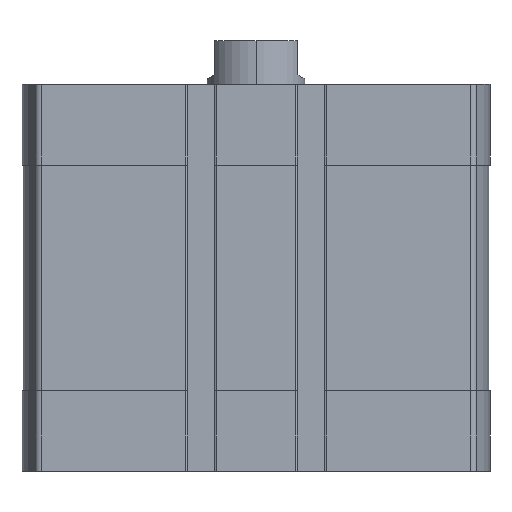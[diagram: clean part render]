
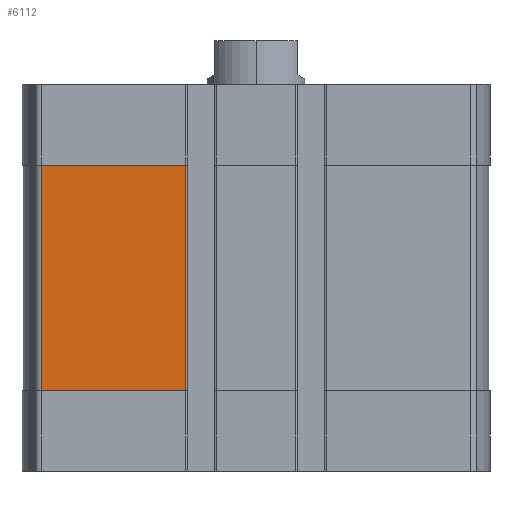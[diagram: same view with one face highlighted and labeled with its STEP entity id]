
A CAD part, left-side view. The second image highlights one B-rep face of the part: STEP entity #6112.
In plain terms, the highlighted planar face has unit normal (-1, 0, 0).
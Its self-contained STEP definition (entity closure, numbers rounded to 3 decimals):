
#735 = FACE_OUTER_BOUND ( 'NONE', #857, .T. ) ;
#784 = EDGE_CURVE ( 'NONE', #5966, #3548, #3607, .T. ) ;
#857 = EDGE_LOOP ( 'NONE', ( #11526, #15227, #14755, #8800 ) ) ;
#1395 = LINE ( 'NONE', #4691, #1409 ) ;
#1409 = VECTOR ( 'NONE', #11854, 1000. ) ;
#1998 = DIRECTION ( 'NONE',  ( 0., -1., 0. ) ) ;
#2184 = CARTESIAN_POINT ( 'NONE',  ( -47.5, 43.743, -62.5 ) ) ;
#2362 = PLANE ( 'NONE',  #15127 ) ;
#3548 = VERTEX_POINT ( 'NONE', #10525 ) ;
#3607 = LINE ( 'NONE', #2184, #3633 ) ;
#3633 = VECTOR ( 'NONE', #1998, 1000. ) ;
#3655 = EDGE_CURVE ( 'NONE', #6944, #5966, #1395, .T. ) ;
#4564 = EDGE_CURVE ( 'NONE', #3548, #4855, #5580, .T. ) ;
#4691 = CARTESIAN_POINT ( 'NONE',  ( -47.5, 43.743, -62.5 ) ) ;
#4855 = VERTEX_POINT ( 'NONE', #7366 ) ;
#5580 = LINE ( 'NONE', #13833, #6139 ) ;
#5655 = DIRECTION ( 'NONE',  ( 0., 0., 1. ) ) ;
#5966 = VERTEX_POINT ( 'NONE', #9305 ) ;
#6072 = DIRECTION ( 'NONE',  ( -1., 0., 0. ) ) ;
#6112 = ADVANCED_FACE ( 'NONE', ( #735 ), #2362, .T. ) ;
#6139 = VECTOR ( 'NONE', #5655, 1000. ) ;
#6944 = VERTEX_POINT ( 'NONE', #12710 ) ;
#7366 = CARTESIAN_POINT ( 'NONE',  ( -47.5, 14.3, -16.5 ) ) ;
#8800 = ORIENTED_EDGE ( 'NONE', *, *, #3655, .T. ) ;
#9305 = CARTESIAN_POINT ( 'NONE',  ( -47.5, 43.743, -62.5 ) ) ;
#9544 = VECTOR ( 'NONE', #10674, 1000. ) ;
#9898 = LINE ( 'NONE', #11855, #9544 ) ;
#10525 = CARTESIAN_POINT ( 'NONE',  ( -47.5, 14.3, -62.5 ) ) ;
#10674 = DIRECTION ( 'NONE',  ( 0., 1., 0. ) ) ;
#11518 = EDGE_CURVE ( 'NONE', #4855, #6944, #9898, .T. ) ;
#11526 = ORIENTED_EDGE ( 'NONE', *, *, #784, .T. ) ;
#11854 = DIRECTION ( 'NONE',  ( 0., 0., -1. ) ) ;
#11855 = CARTESIAN_POINT ( 'NONE',  ( -47.5, 0., -16.5 ) ) ;
#12710 = CARTESIAN_POINT ( 'NONE',  ( -47.5, 43.743, -16.5 ) ) ;
#13072 = CARTESIAN_POINT ( 'NONE',  ( -47.5, 43.743, -62.5 ) ) ;
#13833 = CARTESIAN_POINT ( 'NONE',  ( -47.5, 14.3, -62.5 ) ) ;
#14204 = DIRECTION ( 'NONE',  ( 0., 0., 1. ) ) ;
#14755 = ORIENTED_EDGE ( 'NONE', *, *, #11518, .T. ) ;
#15127 = AXIS2_PLACEMENT_3D ( 'NONE', #13072, #6072, #14204 ) ;
#15227 = ORIENTED_EDGE ( 'NONE', *, *, #4564, .T. ) ;
